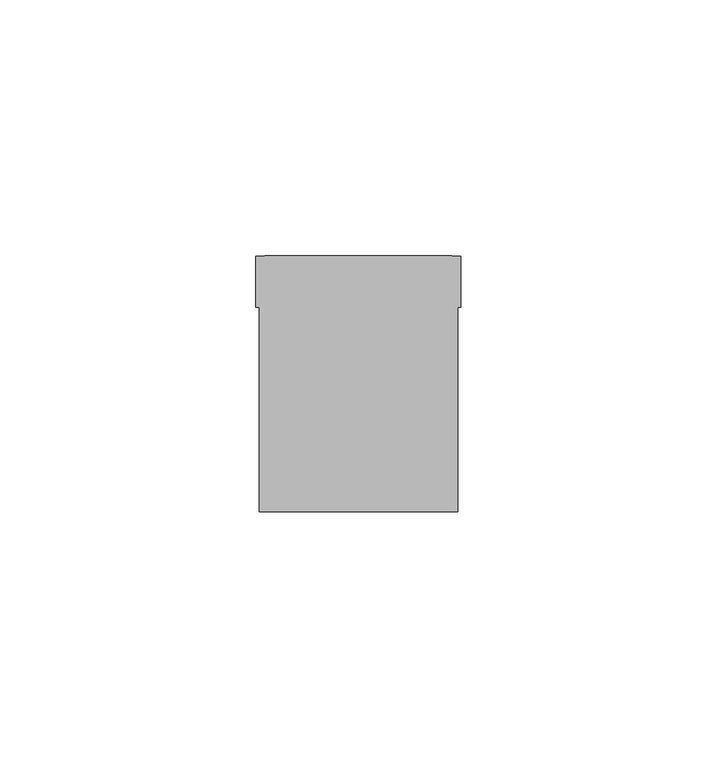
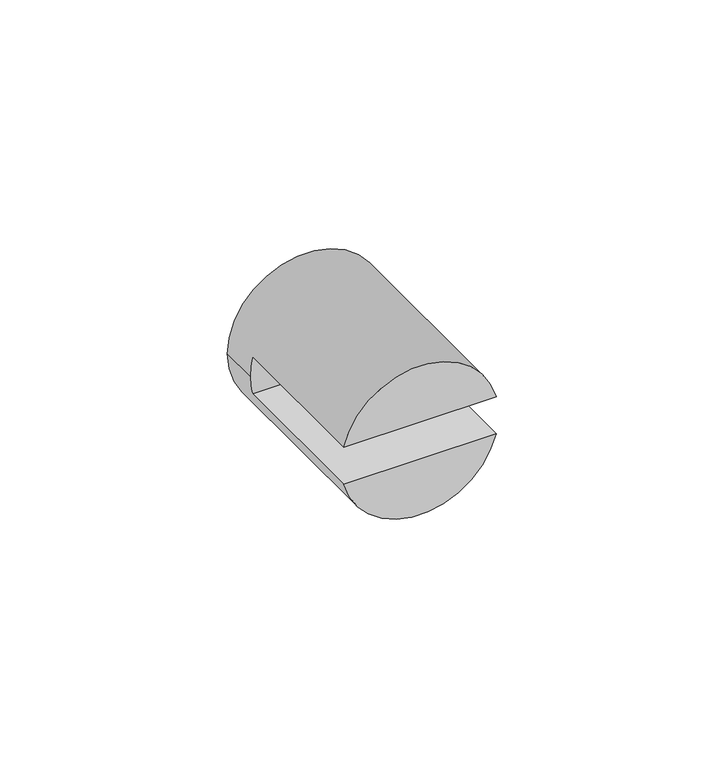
"""IFC4 building model written with IfcOpenShell, lengths in millimetres: furniture geometry, Suporte Prateleira de Vidro : Suporte Prateleira de Vidro."""

from ifc_helpers import new_model, si_unit, frame, origin, place, context, project, spatial, polyline, circle_curve, source, transform, mapped, element, save
from ifc_brep_helpers import plane_surface, cylinder_surface, revolved_surface, advanced_brep


def furniture_e5c32ea2(model_context):
    return source(origin(), model_context, "Body", "AdvancedBrep", [
        advanced_brep(
        [(40.0, 0.0, 5.0), (0.0, 0.0, 5.0), (24.0, 0.0, 5.0), (16.0, 0.0, 5.0), (39.3649167, -50.0, 0.0), (0.6350833, -50.0, 0.0), (0.6350833, -50.0, 10.0), (39.3649167, -50.0, 10.0), (0.0, -10.0, 5.0), (0.6350833, -10.0, 10.0), (39.3649167, -10.0, 10.0), (40.0, -10.0, 5.0), (39.3649167, -10.0, 0.0), (0.6350833, -10.0, 0.0), (16.0, -10.0, 5.0), (24.0, -10.0, 5.0)],
        [
            (0, 1, circle_curve(frame((20.0, 0.0, 5.0), z_axis=(0.0, 1.0, 0.0), x_axis=(-1.0, 0.0, 0.0)), 20.0)),
            (1, 0, circle_curve(frame((20.0, 0.0, 5.0), z_axis=(0.0, 1.0, 0.0), x_axis=(-1.0, 0.0, 0.0)), 20.0)),
            (2, 3, circle_curve(frame((20.0, 0.0, 5.0), z_axis=(0.0, -1.0, 0.0), x_axis=(1.0, 0.0, 0.0)), 4.0)),
            (3, 2, circle_curve(frame((20.0, 0.0, 5.0), z_axis=(0.0, -1.0, 0.0), x_axis=(1.0, 0.0, 0.0)), 4.0)),
            (4, 5),
            (5, 4, circle_curve(frame((20.0, -50.0, 5.0), z_axis=(0.0, -1.0, 0.0), x_axis=(-1.0, 0.0, 0.0)), 20.0)),
            (6, 7),
            (7, 6, circle_curve(frame((20.0, -50.0, 5.0), z_axis=(0.0, -1.0, 0.0), x_axis=(-1.0, 0.0, 0.0)), 20.0)),
            (1, 8),
            (8, 9, circle_curve(frame((20.0, -10.0, 5.0), z_axis=(0.0, 1.0, 0.0), x_axis=(-1.0, 0.0, 0.0)), 20.0)),
            (9, 6),
            (7, 10),
            (10, 11, circle_curve(frame((20.0, -10.0, 5.0), z_axis=(0.0, 1.0, 0.0), x_axis=(-1.0, 0.0, 0.0)), 20.0)),
            (11, 0),
            (11, 12, circle_curve(frame((20.0, -10.0, 5.0), z_axis=(0.0, 1.0, 0.0), x_axis=(-1.0, 0.0, 0.0)), 20.0)),
            (12, 4),
            (5, 13),
            (13, 8, circle_curve(frame((20.0, -10.0, 5.0), z_axis=(0.0, 1.0, 0.0), x_axis=(-1.0, 0.0, 0.0)), 20.0)),
            (13, 12),
            (10, 9),
            (14, 15, circle_curve(frame((20.0, -10.0, 5.0), z_axis=(0.0, 1.0, 0.0), x_axis=(1.0, 0.0, 0.0)), 4.0)),
            (15, 14, circle_curve(frame((20.0, -10.0, 5.0), z_axis=(0.0, 1.0, 0.0), x_axis=(1.0, 0.0, 0.0)), 4.0)),
            (3, 14),
            (15, 2),
        ],
        [
            plane_surface(frame((0.0, 0.0, 5.0), z_axis=(0.0, 1.0, 0.0), x_axis=(0.0, 0.0, -1.0))),
            plane_surface(frame((0.0, -50.0, 5.0), z_axis=(0.0, -1.0, 0.0), x_axis=(0.0, 0.0, 1.0))),
            cylinder_surface(frame((20.0, -50.0, 5.0), z_axis=(0.0, 1.0, 0.0), x_axis=(-1.0, 0.0, 0.0)), 20.0),
            plane_surface(frame((-1.3649167, -10.0, 10.0), z_axis=(0.0, -1.0, 0.0), x_axis=(0.0, 0.0, -1.0))),
            plane_surface(frame((-1.3649167, -10.0, 0.0), z_axis=(0.0, 0.0, 1.0), x_axis=(0.0, -1.0, 0.0))),
            plane_surface(frame((41.3649167, -10.0, 10.0), z_axis=(0.0, 0.0, -1.0), x_axis=(0.0, -1.0, 0.0))),
            revolved_surface(polyline([(24.0, 0.0, 5.0), (24.0, -10.0, 5.0)]), (20.0, -10.0, 5.0), (0.0, 1.0, 0.0)),
        ],
        [
            (0, [[1, 2], [3, 4]]),
            (1, [[5, 6]]),
            (1, [[7, 8]]),
            (2, [[9, 10, 11, -8, 12, 13, 14, -2]]),
            (2, [[-14, 15, 16, -6, 17, 18, -9, -1]]),
            (3, [[-10, -18, 19, -15, -13, 20], [21, 22]]),
            (4, [[-17, -5, -16, -19]]),
            (5, [[-12, -7, -11, -20]]),
            (6, [[-4, 23, -22, 24]]),
            (6, [[-21, -23, -3, -24]]),
        ],
    ),
    ])


if __name__ == "__main__":
    model = new_model("IFC4")
    model_context = context("Model", 3, world=origin())
    ifc_project = project(units=[si_unit("LENGTHUNIT", "METRE", prefix="MILLI")], contexts=[model_context])
    site = spatial("IfcSite", under=ifc_project)
    building = spatial("IfcBuilding", under=site)
    placement = place(None, origin())
    furniture_shape = furniture_e5c32ea2(model_context)
    element("IfcFurniture", 1, ObjectType="Suporte Prateleira de Vidro : Suporte Prateleira de Vidro", at=placement, inside=building, context=model_context, shape_type="MappedRepresentation", body=[
        mapped(furniture_shape, transform((0.0, 0.0, 0.0), x_axis=(1.0, 0.0, 0.0), y_axis=(0.0, 1.0, 0.0), z_axis=(0.0, 0.0, 1.0))),
    ])
    save(model, "model.ifc")
